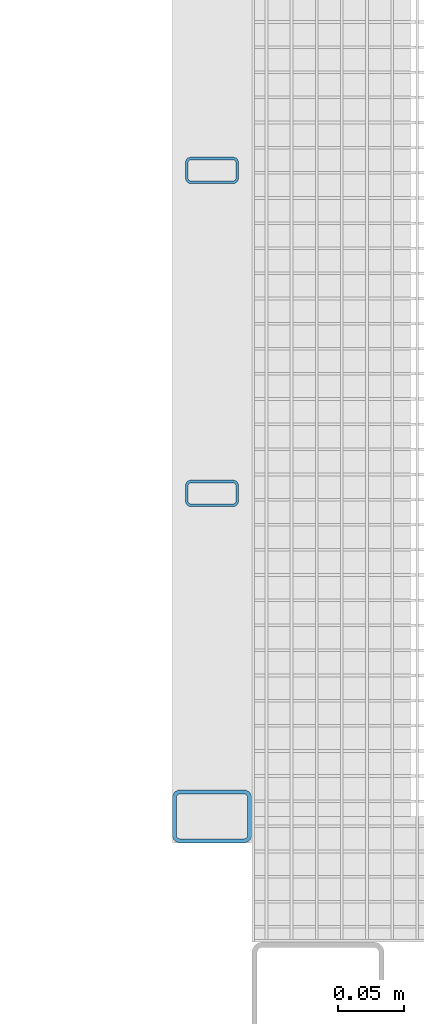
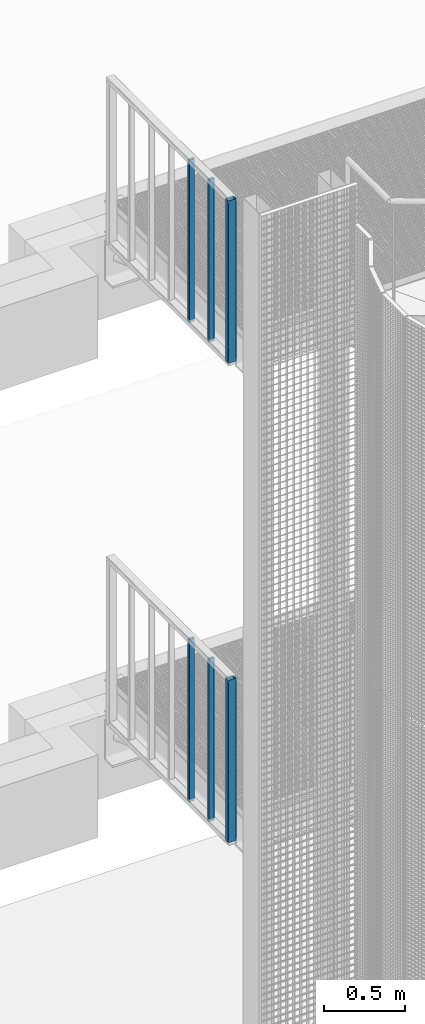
# One storey, part 19 of 1148: 6 columns, 6 elements without a shape of their own.
"""IFC2X3 building model written with IfcOpenShell, lengths in millimetres."""

from ifc_helpers import new_model, si_unit, frame, origin_with_axes, origin_2d_with_axis, place, context, subcontext, project, spatial, hollow_rectangle, extrude, material, type_object, element, aggregate, save


model = new_model("IFC2X3")

# Units and contexts
model_context = context("Model", 3, precision=1e-05, world=origin_with_axes())
body_context = subcontext(model_context, "Body", "Model", "MODEL_VIEW")
ifc_project = project(units=[si_unit("LENGTHUNIT", "METRE", prefix="MILLI"), si_unit("AREAUNIT", "SQUARE_METRE"), si_unit("VOLUMEUNIT", "CUBIC_METRE"), si_unit("MASSUNIT", "GRAM", prefix="KILO"), si_unit("TIMEUNIT", "SECOND"), si_unit("PLANEANGLEUNIT", "RADIAN"), si_unit("SOLIDANGLEUNIT", "STERADIAN"), si_unit("THERMODYNAMICTEMPERATUREUNIT", "DEGREE_CELSIUS"), si_unit("LUMINOUSINTENSITYUNIT", "LUMEN")], contexts=[model_context])

# Site, building, storey
site_placement = place(None, origin_with_axes())
site = spatial("IfcSite", under=ifc_project, at=site_placement, Name="Undefined", CompositionType="ELEMENT")
building_placement = place(site_placement, origin_with_axes())
building = spatial("IfcBuilding", under=site, at=building_placement, Name="Undefined", CompositionType="ELEMENT")
storey_placement = place(building_placement, origin_with_axes())
storey = spatial("IfcBuildingStorey", under=building, at=storey_placement, Name="Undefined", CompositionType="ELEMENT", Elevation=0.0)

# Assembly, column
assembly_1_placement = place(storey_placement, origin_with_axes())
assembly_1 = element("IfcElementAssembly", 1, at=assembly_1_placement, inside=storey, Name="STANCHION", AssemblyPlace="NOTDEFINED", PredefinedType="NOTDEFINED")
ifc_material = material(Name="Undefined/FE510D")
column_type_1 = type_object("IfcColumnType", Name="TUBE-R-40*20*2", PredefinedType="NOTDEFINED")
column_1_placement = place(assembly_1_placement, frame((-1580.0682041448, 1683.34979617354, 17020.0), z_axis=(0.0, 0.0, 1.0), x_axis=(-0.999999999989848, 4.50600000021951e-06, 0.0)))
column_1 = element("IfcColumn", 2, at=column_1_placement, type_object=column_type_1, material=ifc_material, Name="STANCHION", context=body_context, shape_type="SweptSolid", body=[
    extrude(hollow_rectangle(XDim=20.0, YDim=40.0, WallThickness=2.0, InnerFilletRadius=2.0, OuterFilletRadius=4.0, at=origin_2d_with_axis()), frame((0.0, 0.0, 1219.99999999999), z_axis=(0.0, 0.0, -1.0), x_axis=(0.0, 1.0, 0.0)), (0.0, 0.0, 1.0), 1220.0),
])
aggregate(assembly_1, [column_1])

assembly_2_placement = place(storey_placement, origin_with_axes())
assembly_2 = element("IfcElementAssembly", 3, at=assembly_2_placement, inside=storey, Name="STANCHION", AssemblyPlace="NOTDEFINED", PredefinedType="NOTDEFINED")
column_2_placement = place(assembly_2_placement, frame((-1580.06930437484, 1439.17979617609, 17020.0), z_axis=(0.0, 0.0, 1.0), x_axis=(-0.999999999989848, 4.50600000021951e-06, 0.0)))
column_2 = element("IfcColumn", 4, at=column_2_placement, type_object=column_type_1, material=ifc_material, Name="STANCHION", context=body_context, shape_type="SweptSolid", body=[
    extrude(hollow_rectangle(XDim=20.0, YDim=40.0, WallThickness=2.0, InnerFilletRadius=2.0, OuterFilletRadius=4.0, at=origin_2d_with_axis()), frame((0.0, 0.0, 1219.99999999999), z_axis=(0.0, 0.0, -1.0), x_axis=(0.0, 1.0, 0.0)), (0.0, 0.0, 1.0), 1220.0),
])
aggregate(assembly_2, [column_2])

assembly_3_placement = place(storey_placement, origin_with_axes())
assembly_3 = element("IfcElementAssembly", 5, at=assembly_3_placement, inside=storey, Name="STANCHION", AssemblyPlace="NOTDEFINED", PredefinedType="NOTDEFINED")
column_3_placement = place(assembly_3_placement, frame((-1580.0682041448, 1683.34979617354, 13420.0), z_axis=(0.0, 0.0, 1.0), x_axis=(-0.999999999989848, 4.50600000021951e-06, 0.0)))
column_3 = element("IfcColumn", 6, at=column_3_placement, type_object=column_type_1, material=ifc_material, Name="STANCHION", context=body_context, shape_type="SweptSolid", body=[
    extrude(hollow_rectangle(XDim=20.0, YDim=40.0, WallThickness=2.0, InnerFilletRadius=2.0, OuterFilletRadius=4.0, at=origin_2d_with_axis()), frame((0.0, 0.0, 1219.99999999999), z_axis=(0.0, 0.0, -1.0), x_axis=(0.0, 1.0, 0.0)), (0.0, 0.0, 1.0), 1220.0),
])
aggregate(assembly_3, [column_3])

assembly_4_placement = place(storey_placement, origin_with_axes())
assembly_4 = element("IfcElementAssembly", 7, at=assembly_4_placement, inside=storey, Name="STANCHION", AssemblyPlace="NOTDEFINED", PredefinedType="NOTDEFINED")
column_4_placement = place(assembly_4_placement, frame((-1580.06930437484, 1439.17979617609, 13420.0), z_axis=(0.0, 0.0, 1.0), x_axis=(-0.999999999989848, 4.50600000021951e-06, 0.0)))
column_4 = element("IfcColumn", 8, at=column_4_placement, type_object=column_type_1, material=ifc_material, Name="STANCHION", context=body_context, shape_type="SweptSolid", body=[
    extrude(hollow_rectangle(XDim=20.0, YDim=40.0, WallThickness=2.0, InnerFilletRadius=2.0, OuterFilletRadius=4.0, at=origin_2d_with_axis()), frame((0.0, 0.0, 1219.99999999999), z_axis=(0.0, 0.0, -1.0), x_axis=(0.0, 1.0, 0.0)), (0.0, 0.0, 1.0), 1220.0),
])
aggregate(assembly_4, [column_4])

assembly_5_placement = place(storey_placement, origin_with_axes())
assembly_5 = element("IfcElementAssembly", 9, at=assembly_5_placement, inside=storey, Name="STANCHION", AssemblyPlace="NOTDEFINED", PredefinedType="NOTDEFINED")
column_type_2 = type_object("IfcColumnType", Name="TUBE-R-60*40*3", PredefinedType="NOTDEFINED")
column_5_placement = place(assembly_5_placement, frame((-1580.07043456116, 1195.01007484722, 17020.0), z_axis=(0.0, 0.0, 1.0), x_axis=(-0.999999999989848, 4.50600000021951e-06, 0.0)))
column_5 = element("IfcColumn", 10, at=column_5_placement, type_object=column_type_2, material=ifc_material, Name="STANCHION", context=body_context, shape_type="SweptSolid", body=[
    extrude(hollow_rectangle(XDim=40.0, YDim=60.0, WallThickness=3.0, InnerFilletRadius=3.0, OuterFilletRadius=6.0, at=origin_2d_with_axis()), frame((0.0, 0.0, 1219.99999999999), z_axis=(0.0, 0.0, -1.0), x_axis=(0.0, 1.0, 0.0)), (0.0, 0.0, 1.0), 1220.0),
])
aggregate(assembly_5, [column_5])

assembly_6_placement = place(storey_placement, origin_with_axes())
assembly_6 = element("IfcElementAssembly", 11, at=assembly_6_placement, inside=storey, Name="STANCHION", AssemblyPlace="NOTDEFINED", PredefinedType="NOTDEFINED")
column_6_placement = place(assembly_6_placement, frame((-1580.07043456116, 1195.01007484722, 13420.0), z_axis=(0.0, 0.0, 1.0), x_axis=(-0.999999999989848, 4.50600000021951e-06, 0.0)))
column_6 = element("IfcColumn", 12, at=column_6_placement, type_object=column_type_2, material=ifc_material, Name="STANCHION", context=body_context, shape_type="SweptSolid", body=[
    extrude(hollow_rectangle(XDim=40.0, YDim=60.0, WallThickness=3.0, InnerFilletRadius=3.0, OuterFilletRadius=6.0, at=origin_2d_with_axis()), frame((0.0, 0.0, 1219.99999999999), z_axis=(0.0, 0.0, -1.0), x_axis=(0.0, 1.0, 0.0)), (0.0, 0.0, 1.0), 1220.0),
])
aggregate(assembly_6, [column_6])

save(model, "model.ifc")
